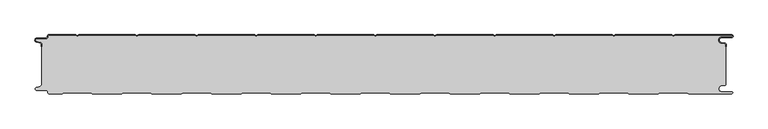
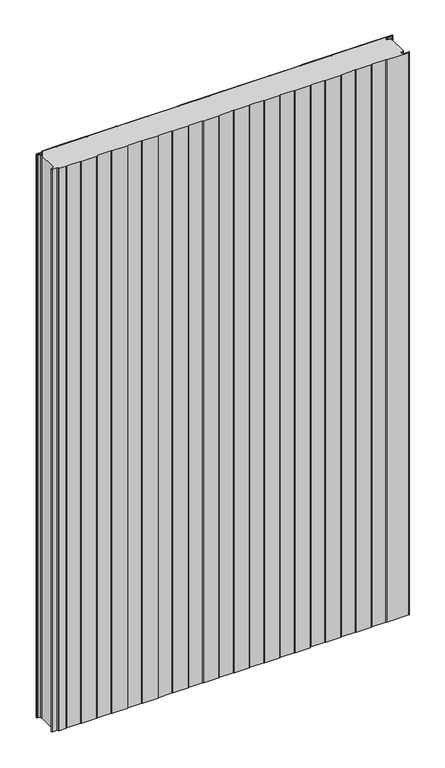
"""IFC4 building model written with IfcOpenShell, lengths in millimetres: plate geometry, PM1_Curtain-Panel_Perfil-Estándar : ACH_PM1_Panel-Acústico-Sectorización_100M."""

from ifc_helpers import new_model, si_unit, point, frame, frame_2d, origin, origin_with_axes, place, context, project, spatial, polyline, circle_curve, trimmed, segment, composite_curve, outline, extrude, source, transform, mapped, element, save
from ifc_brep_helpers import plane_surface, cylinder_surface, revolved_surface, advanced_brep


def plate_93d1fdce(model_context):
    return source(origin(), model_context, "Body", "SolidModel", [
        advanced_brep(
        [(-575.0, -15.878557, 1945.7507136), (-575.0, -20.0, 1945.7507136), (-574.2, -20.0, 1945.7507136), (-574.2, -15.878557, 1945.7507136), (-576.370137, -13.1503208, 1945.7507136), (-582.529863, -11.728236, 1945.7507136), (-581.9, -6.2, 1945.7507136), (-566.4, -6.2, 1945.7507136), (-563.6, -3.4, 1945.7507136), (-563.6, -2.0, 1945.7507136), (-562.4, -0.8, 1945.7507136), (-517.3143588, -0.8, 1945.7507136), (-514.4, -2.482606, 1945.7507136), (-511.4856412, -0.8, 1945.7507136), (-417.3143588, -0.8, 1945.7507136), (-414.4, -2.482606, 1945.7507136), (-411.4856412, -0.8, 1945.7507136), (-317.3143588, -0.8, 1945.7507136), (-314.4, -2.482606, 1945.7507136), (-311.4856412, -0.8, 1945.7507136), (-217.3143588, -0.8, 1945.7507136), (-214.4, -2.482606, 1945.7507136), (-211.4856412, -0.8, 1945.7507136), (-117.3143588, -0.8, 1945.7507136), (-114.4, -2.482606, 1945.7507136), (-111.4856412, -0.8, 1945.7507136), (-17.3143588, -0.8, 1945.7507136), (-14.4, -2.482606, 1945.7507136), (-11.4856412, -0.8, 1945.7507136), (82.6856412, -0.8, 1945.7507136), (85.6, -2.482606, 1945.7507136), (88.5143588, -0.8, 1945.7507136), (182.6856412, -0.8, 1945.7507136), (185.6, -2.482606, 1945.7507136), (188.5143588, -0.8, 1945.7507136), (282.6856412, -0.8, 1945.7507136), (285.6, -2.482606, 1945.7507136), (288.5143588, -0.8, 1945.7507136), (382.6856412, -0.8, 1945.7507136), (385.6, -2.482606, 1945.7507136), (388.5143588, -0.8, 1945.7507136), (482.6856412, -0.8, 1945.7507136), (485.6, -2.482606, 1945.7507136), (488.5143588, -0.8, 1945.7507136), (583.1, -0.8, 1945.7507136), (583.1, -4.2, 1945.7507136), (566.1, -4.2, 1945.7507136), (565.2664884, -13.7270771, 1945.7507136), (571.7125669, -14.8636953, 1945.7507136), (573.2, -16.6363492, 1945.7507136), (573.2, -20.0, 1945.7507136), (574.0, -20.0, 1945.7507136), (574.0, -16.6363492, 1945.7507136), (571.8514855, -14.0758491, 1945.7507136), (565.405407, -12.939231, 1945.7507136), (566.1, -5.0, 1945.7507136), (583.1, -5.0, 1945.7507136), (585.6, -2.5, 1945.7507136), (583.1, 0.0, 1945.7507136), (488.2999995, 0.0, 1945.7507136), (485.6, -1.5588455, 1945.7507136), (482.9000005, 0.0, 1945.7507136), (388.2999995, 0.0, 1945.7507136), (385.6, -1.5588455, 1945.7507136), (382.9000005, 0.0, 1945.7507136), (288.2999995, 0.0, 1945.7507136), (285.6, -1.5588455, 1945.7507136), (282.9000005, 0.0, 1945.7507136), (188.2999995, 0.0, 1945.7507136), (185.6, -1.5588455, 1945.7507136), (182.9000005, 0.0, 1945.7507136), (88.2999995, 0.0, 1945.7507136), (85.6, -1.5588455, 1945.7507136), (82.9000005, 0.0, 1945.7507136), (-11.7000005, 0.0, 1945.7507136), (-14.4, -1.5588455, 1945.7507136), (-17.0999995, 0.0, 1945.7507136), (-111.7000005, 0.0, 1945.7507136), (-114.4, -1.5588455, 1945.7507136), (-117.0999995, 0.0, 1945.7507136), (-211.7000005, 0.0, 1945.7507136), (-214.4, -1.5588455, 1945.7507136), (-217.0999995, 0.0, 1945.7507136), (-311.7000005, 0.0, 1945.7507136), (-314.4, -1.5588455, 1945.7507136), (-317.0999995, 0.0, 1945.7507136), (-411.7000005, 0.0, 1945.7507136), (-414.4, -1.5588455, 1945.7507136), (-417.0999995, 0.0, 1945.7507136), (-511.7000005, 0.0, 1945.7507136), (-514.4, -1.5588455, 1945.7507136), (-517.0999995, 0.0, 1945.7507136), (-562.4, 0.0, 1945.7507136), (-564.4, -2.0, 1945.7507136), (-564.4, -3.4, 1945.7507136), (-566.4, -5.4, 1945.7507136), (-581.9, -5.4, 1945.7507136), (-582.7098239, -12.5077322, 1945.7507136), (-576.5500979, -13.929817, 1945.7507136), (-575.0, -15.878557, 0.0), (-576.5500978, -13.9298169, 0.0), (-582.7098239, -12.507732, 0.0), (-581.9, -5.4, 0.0), (-566.4, -5.4, 0.0), (-564.4, -3.4, 0.0), (-564.4, -2.0, 0.0), (-562.4, 0.0, 0.0), (-517.0999995, 0.0, 0.0), (-514.4, -1.5588455, 0.0), (-511.7000005, 0.0, 0.0), (-417.0999995, 0.0, 0.0), (-414.4, -1.5588455, 0.0), (-411.7000005, 0.0, 0.0), (-317.0999995, 0.0, 0.0), (-314.4, -1.5588455, 0.0), (-311.7000005, 0.0, 0.0), (-217.0999995, 0.0, 0.0), (-214.4, -1.5588455, 0.0), (-211.7000005, 0.0, 0.0), (-117.0999995, 0.0, 0.0), (-114.4, -1.5588455, 0.0), (-111.7000005, 0.0, 0.0), (-17.0999995, 0.0, 0.0), (-14.4, -1.5588455, 0.0), (-11.7000005, 0.0, 0.0), (82.9000005, 0.0, 0.0), (85.6, -1.5588455, 0.0), (88.2999995, 0.0, 0.0), (182.9000005, 0.0, 0.0), (185.6, -1.5588455, 0.0), (188.2999995, 0.0, 0.0), (282.9000005, 0.0, 0.0), (285.6, -1.5588455, 0.0), (288.2999995, 0.0, 0.0), (382.9000005, 0.0, 0.0), (385.6, -1.5588455, 0.0), (388.2999995, 0.0, 0.0), (482.9000005, 0.0, 0.0), (485.6, -1.5588455, 0.0), (488.2999995, 0.0, 0.0), (583.1, 0.0, 0.0), (585.6, -2.5, 0.0), (583.1, -5.0, 0.0), (566.1, -5.0, 0.0), (565.405407, -12.939231, 0.0), (571.8514855, -14.0758491, 0.0), (574.0, -16.6363492, 0.0), (574.0, -20.0, 0.0), (573.2, -20.0, 0.0), (573.2, -16.6363492, 0.0), (571.7125669, -14.8636953, 0.0), (565.2664884, -13.7270772, 0.0), (566.1, -4.2, 0.0), (583.1, -4.2, 0.0), (583.1, -0.8, 0.0), (488.5143588, -0.8, 0.0), (485.6, -2.482606, 0.0), (482.6856412, -0.8, 0.0), (388.5143588, -0.8, 0.0), (385.6, -2.482606, 0.0), (382.6856412, -0.8, 0.0), (288.5143588, -0.8, 0.0), (285.6, -2.482606, 0.0), (282.6856412, -0.8, 0.0), (188.5143588, -0.8, 0.0), (185.6, -2.482606, 0.0), (182.6856412, -0.8, 0.0), (88.5143588, -0.8, 0.0), (85.6, -2.482606, 0.0), (82.6856412, -0.8, 0.0), (-11.4856412, -0.8, 0.0), (-14.4, -2.482606, 0.0), (-17.3143588, -0.8, 0.0), (-111.4856412, -0.8, 0.0), (-114.4, -2.482606, 0.0), (-117.3143588, -0.8, 0.0), (-211.4856412, -0.8, 0.0), (-214.4, -2.482606, 0.0), (-217.3143588, -0.8, 0.0), (-311.4856412, -0.8, 0.0), (-314.4, -2.482606, 0.0), (-317.3143588, -0.8, 0.0), (-411.4856412, -0.8, 0.0), (-414.4, -2.482606, 0.0), (-417.3143588, -0.8, 0.0), (-511.4856412, -0.8, 0.0), (-514.4, -2.482606, 0.0), (-517.3143588, -0.8, 0.0), (-562.4, -0.8, 0.0), (-563.6, -2.0, 0.0), (-563.6, -3.4, 0.0), (-566.4, -6.2, 0.0), (-581.9, -6.2, 0.0), (-582.529863, -11.7282362, 0.0), (-576.370137, -13.150321, 0.0), (-574.2, -15.878557, 0.0), (-574.2, -20.0, 0.0), (-575.0, -20.0, 0.0)],
        [
            (0, 1),
            (1, 2),
            (2, 3),
            (3, 4, circle_curve(frame((-577.0, -15.878557, 1945.7507136), z_axis=(0.0, 0.0, 1.0), x_axis=(1.0, 0.0, 0.0)), 2.8)),
            (4, 5),
            (5, 6, circle_curve(frame((-581.9, -9.0, 1945.7507136), z_axis=(0.0, 0.0, -1.0), x_axis=(1.0, 0.0, 0.0)), 2.8)),
            (6, 7),
            (7, 8, circle_curve(frame((-566.4, -3.4, 1945.7507136), z_axis=(0.0, 0.0, 1.0), x_axis=(1.0, 0.0, 0.0)), 2.8)),
            (8, 9),
            (9, 10, circle_curve(frame((-562.4, -2.0, 1945.7507136), z_axis=(0.0, 0.0, -1.0), x_axis=(1.0, 0.0, 0.0)), 1.2)),
            (10, 11),
            (11, 12),
            (12, 13),
            (13, 14),
            (14, 15),
            (15, 16),
            (16, 17),
            (17, 18),
            (18, 19),
            (19, 20),
            (20, 21),
            (21, 22),
            (22, 23),
            (23, 24),
            (24, 25),
            (25, 26),
            (26, 27),
            (27, 28),
            (28, 29),
            (29, 30),
            (30, 31),
            (31, 32),
            (32, 33),
            (33, 34),
            (34, 35),
            (35, 36),
            (36, 37),
            (37, 38),
            (38, 39),
            (39, 40),
            (40, 41),
            (41, 42),
            (42, 43),
            (43, 44),
            (44, 45, circle_curve(frame((583.1, -2.5, 1945.7507136), z_axis=(0.0, 0.0, -1.0), x_axis=(1.0, 0.0, 0.0)), 1.7)),
            (45, 46),
            (46, 47, circle_curve(frame((566.1, -9.0, 1945.7507136), z_axis=(0.0, 0.0, 1.0), x_axis=(1.0, 0.0, 0.0)), 4.8)),
            (47, 48),
            (48, 49, circle_curve(frame((571.4, -16.6363492, 1945.7507136), z_axis=(0.0, 0.0, -1.0), x_axis=(1.0, 0.0, 0.0)), 1.8)),
            (49, 50),
            (50, 51),
            (51, 52),
            (52, 53, circle_curve(frame((571.4, -16.6363492, 1945.7507136), z_axis=(0.0, 0.0, 1.0), x_axis=(1.0, 0.0, 0.0)), 2.6)),
            (53, 54),
            (54, 55, circle_curve(frame((566.1, -9.0, 1945.7507136), z_axis=(0.0, 0.0, -1.0), x_axis=(1.0, 0.0, 0.0)), 4.0)),
            (55, 56),
            (56, 57, circle_curve(frame((583.1, -2.5, 1945.7507136), z_axis=(0.0, 0.0, 1.0), x_axis=(1.0, 0.0, 0.0)), 2.5)),
            (57, 58, circle_curve(frame((583.1, -2.5, 1945.7507136), z_axis=(0.0, 0.0, 1.0), x_axis=(1.0, 0.0, 0.0)), 2.5)),
            (58, 59),
            (59, 60),
            (60, 61),
            (61, 62),
            (62, 63),
            (63, 64),
            (64, 65),
            (65, 66),
            (66, 67),
            (67, 68),
            (68, 69),
            (69, 70),
            (70, 71),
            (71, 72),
            (72, 73),
            (73, 74),
            (74, 75),
            (75, 76),
            (76, 77),
            (77, 78),
            (78, 79),
            (79, 80),
            (80, 81),
            (81, 82),
            (82, 83),
            (83, 84),
            (84, 85),
            (85, 86),
            (86, 87),
            (87, 88),
            (88, 89),
            (89, 90),
            (90, 91),
            (91, 92),
            (92, 93, circle_curve(frame((-562.4, -2.0, 1945.7507136), z_axis=(0.0, 0.0, 1.0), x_axis=(1.0, 0.0, 0.0)), 2.0)),
            (93, 94),
            (94, 95, circle_curve(frame((-566.4, -3.4, 1945.7507136), z_axis=(0.0, 0.0, -1.0), x_axis=(1.0, 0.0, 0.0)), 2.0)),
            (95, 96),
            (96, 97, circle_curve(frame((-581.9, -9.0, 1945.7507136), z_axis=(0.0, 0.0, 1.0), x_axis=(1.0, 0.0, 0.0)), 3.6)),
            (97, 98),
            (98, 0, circle_curve(frame((-577.0, -15.878557, 1945.7507136), z_axis=(0.0, 0.0, -1.0), x_axis=(1.0, 0.0, 0.0)), 2.0)),
            (99, 100, circle_curve(frame((-577.0, -15.878557, 0.0), z_axis=(0.0, 0.0, 1.0), x_axis=(1.0, 0.0, 0.0)), 2.0)),
            (100, 101),
            (101, 102, circle_curve(frame((-581.9, -9.0, 0.0), z_axis=(0.0, 0.0, -1.0), x_axis=(1.0, 0.0, 0.0)), 3.6)),
            (102, 103),
            (103, 104, circle_curve(frame((-566.4, -3.4, 0.0), z_axis=(0.0, 0.0, 1.0), x_axis=(1.0, 0.0, 0.0)), 2.0)),
            (104, 105),
            (105, 106, circle_curve(frame((-562.4, -2.0, 0.0), z_axis=(0.0, 0.0, -1.0), x_axis=(1.0, 0.0, 0.0)), 2.0)),
            (106, 107),
            (107, 108),
            (108, 109),
            (109, 110),
            (110, 111),
            (111, 112),
            (112, 113),
            (113, 114),
            (114, 115),
            (115, 116),
            (116, 117),
            (117, 118),
            (118, 119),
            (119, 120),
            (120, 121),
            (121, 122),
            (122, 123),
            (123, 124),
            (124, 125),
            (125, 126),
            (126, 127),
            (127, 128),
            (128, 129),
            (129, 130),
            (130, 131),
            (131, 132),
            (132, 133),
            (133, 134),
            (134, 135),
            (135, 136),
            (136, 137),
            (137, 138),
            (138, 139),
            (139, 140),
            (140, 141, circle_curve(frame((583.1, -2.5, 0.0), z_axis=(0.0, 0.0, -1.0), x_axis=(1.0, 0.0, 0.0)), 2.5)),
            (141, 142, circle_curve(frame((583.1, -2.5, 0.0), z_axis=(0.0, 0.0, -1.0), x_axis=(1.0, 0.0, 0.0)), 2.5)),
            (142, 143),
            (143, 144, circle_curve(frame((566.1, -9.0, 0.0), z_axis=(0.0, 0.0, 1.0), x_axis=(1.0, 0.0, 0.0)), 4.0)),
            (144, 145),
            (145, 146, circle_curve(frame((571.4, -16.6363492, 0.0), z_axis=(0.0, 0.0, -1.0), x_axis=(1.0, 0.0, 0.0)), 2.6)),
            (146, 147),
            (147, 148),
            (148, 149),
            (149, 150, circle_curve(frame((571.4, -16.6363492, 0.0), z_axis=(0.0, 0.0, 1.0), x_axis=(1.0, 0.0, 0.0)), 1.8)),
            (150, 151),
            (151, 152, circle_curve(frame((566.1, -9.0, 0.0), z_axis=(0.0, 0.0, -1.0), x_axis=(1.0, 0.0, 0.0)), 4.8)),
            (152, 153),
            (153, 154, circle_curve(frame((583.1, -2.5, 0.0), z_axis=(0.0, 0.0, 1.0), x_axis=(1.0, 0.0, 0.0)), 1.7)),
            (154, 155),
            (155, 156),
            (156, 157),
            (157, 158),
            (158, 159),
            (159, 160),
            (160, 161),
            (161, 162),
            (162, 163),
            (163, 164),
            (164, 165),
            (165, 166),
            (166, 167),
            (167, 168),
            (168, 169),
            (169, 170),
            (170, 171),
            (171, 172),
            (172, 173),
            (173, 174),
            (174, 175),
            (175, 176),
            (176, 177),
            (177, 178),
            (178, 179),
            (179, 180),
            (180, 181),
            (181, 182),
            (182, 183),
            (183, 184),
            (184, 185),
            (185, 186),
            (186, 187),
            (187, 188),
            (188, 189, circle_curve(frame((-562.4, -2.0, 0.0), z_axis=(0.0, 0.0, 1.0), x_axis=(1.0, 0.0, 0.0)), 1.2)),
            (189, 190),
            (190, 191, circle_curve(frame((-566.4, -3.4, 0.0), z_axis=(0.0, 0.0, -1.0), x_axis=(1.0, 0.0, 0.0)), 2.8)),
            (191, 192),
            (192, 193, circle_curve(frame((-581.9, -9.0, 0.0), z_axis=(0.0, 0.0, 1.0), x_axis=(1.0, 0.0, 0.0)), 2.8)),
            (193, 194),
            (194, 195, circle_curve(frame((-577.0, -15.878557, 0.0), z_axis=(0.0, 0.0, -1.0), x_axis=(1.0, 0.0, 0.0)), 2.8)),
            (195, 196),
            (196, 197),
            (197, 99),
            (0, 99),
            (197, 1),
            (196, 2),
            (195, 3),
            (194, 4),
            (193, 5),
            (192, 6),
            (191, 7),
            (190, 8),
            (189, 9),
            (188, 10),
            (187, 11),
            (186, 12),
            (185, 13),
            (184, 14),
            (183, 15),
            (182, 16),
            (181, 17),
            (180, 18),
            (179, 19),
            (178, 20),
            (177, 21),
            (176, 22),
            (175, 23),
            (174, 24),
            (173, 25),
            (172, 26),
            (171, 27),
            (170, 28),
            (169, 29),
            (168, 30),
            (167, 31),
            (166, 32),
            (165, 33),
            (164, 34),
            (163, 35),
            (162, 36),
            (161, 37),
            (160, 38),
            (159, 39),
            (158, 40),
            (157, 41),
            (156, 42),
            (155, 43),
            (154, 44),
            (153, 45),
            (152, 46),
            (151, 47),
            (150, 48),
            (149, 49),
            (148, 50),
            (147, 51),
            (146, 52),
            (145, 53),
            (144, 54),
            (143, 55),
            (142, 56),
            (140, 58),
            (139, 59),
            (138, 60),
            (137, 61),
            (136, 62),
            (135, 63),
            (134, 64),
            (133, 65),
            (132, 66),
            (131, 67),
            (130, 68),
            (129, 69),
            (128, 70),
            (127, 71),
            (126, 72),
            (125, 73),
            (124, 74),
            (123, 75),
            (122, 76),
            (121, 77),
            (120, 78),
            (119, 79),
            (118, 80),
            (117, 81),
            (116, 82),
            (115, 83),
            (114, 84),
            (113, 85),
            (112, 86),
            (111, 87),
            (110, 88),
            (109, 89),
            (108, 90),
            (107, 91),
            (106, 92),
            (105, 93),
            (104, 94),
            (103, 95),
            (102, 96),
            (101, 97),
            (100, 98),
        ],
        [
            plane_surface(frame((-575.0, 0.0, 1945.7507136), z_axis=(0.0, 0.0, 1.0), x_axis=(0.0, 1.0, 0.0))),
            plane_surface(frame((-575.0, 0.0, 0.0), z_axis=(0.0, 0.0, -1.0), x_axis=(0.0, 1.0, 0.0))),
            plane_surface(frame((-575.0, -15.878557, 1945.7507136), z_axis=(-1.0, 0.0, 0.0), x_axis=(0.0, 0.0, -1.0))),
            plane_surface(frame((-575.0, -20.0, 1945.7507136), z_axis=(0.0, -1.0, 0.0), x_axis=(0.0, 0.0, -1.0))),
            plane_surface(frame((-574.2, -20.0, 1945.7507136), z_axis=(1.0, 0.0, 0.0), x_axis=(0.0, 0.0, -1.0))),
            cylinder_surface(frame((-577.0, -15.878557, 1945.7507136), z_axis=(0.0, 0.0, 1.0), x_axis=(1.0, 0.0, 0.0)), 2.8),
            plane_surface(frame((-576.370137, -13.150321, 1945.7507136), z_axis=(0.22495108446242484, 0.9743700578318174, 0.0), x_axis=(0.0, 0.0, -1.0))),
            revolved_surface(polyline([(-579.1, -9.0, 0.0), (-579.1, -9.0, 1945.7507136)]), (-581.9, -9.0, 1945.7507136), (0.0, 0.0, -1.0)),
            plane_surface(frame((-581.9, -6.2, 1945.7507136), z_axis=(0.0, -1.0, 0.0), x_axis=(0.0, 0.0, -1.0))),
            cylinder_surface(frame((-566.4, -3.4, 1945.7507136), z_axis=(0.0, 0.0, 1.0), x_axis=(1.0, 0.0, 0.0)), 2.8),
            plane_surface(frame((-563.6, -3.4, 1945.7507136), z_axis=(1.0, 0.0, 0.0), x_axis=(0.0, 0.0, -1.0))),
            revolved_surface(polyline([(-561.1999999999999, -2.0, 0.0), (-561.1999999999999, -2.0, 1945.7507136)]), (-562.4, -2.0, 1945.7507136), (0.0, 0.0, -1.0)),
            plane_surface(frame((-562.4, -0.8, 1945.7507136), z_axis=(0.0, -1.0, 0.0), x_axis=(0.0, 0.0, -1.0))),
            plane_surface(frame((-517.3143588, -0.8, 1945.7507136), z_axis=(-0.5000000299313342, -0.8660253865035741, 0.0), x_axis=(0.0, 0.0, -1.0))),
            plane_surface(frame((-514.4, -2.482606, 1945.7507136), z_axis=(0.5000000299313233, -0.8660253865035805, 0.0), x_axis=(0.0, 0.0, -1.0))),
            plane_surface(frame((-511.4856412, -0.8, 1945.7507136), z_axis=(0.0, -1.0, 0.0), x_axis=(0.0, 0.0, -1.0))),
            plane_surface(frame((-417.3143588, -0.8, 1945.7507136), z_axis=(-0.5000000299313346, -0.8660253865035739, 0.0), x_axis=(0.0, 0.0, -1.0))),
            plane_surface(frame((-414.4, -2.482606, 1945.7507136), z_axis=(0.5000000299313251, -0.8660253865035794, 0.0), x_axis=(0.0, 0.0, -1.0))),
            plane_surface(frame((-411.4856412, -0.8, 1945.7507136), z_axis=(0.0, -1.0, 0.0), x_axis=(0.0, 0.0, -1.0))),
            plane_surface(frame((-317.3143588, -0.8, 1945.7507136), z_axis=(-0.5000000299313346, -0.866025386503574, 0.0), x_axis=(0.0, 0.0, -1.0))),
            plane_surface(frame((-314.4, -2.482606, 1945.7507136), z_axis=(0.5000000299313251, -0.8660253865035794, 0.0), x_axis=(0.0, 0.0, -1.0))),
            plane_surface(frame((-311.4856412, -0.8, 1945.7507136), z_axis=(0.0, -1.0, 0.0), x_axis=(0.0, 0.0, -1.0))),
            plane_surface(frame((-217.3143588, -0.8, 1945.7507136), z_axis=(-0.5000000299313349, -0.8660253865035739, 0.0), x_axis=(0.0, 0.0, -1.0))),
            plane_surface(frame((-214.4, -2.482606, 1945.7507136), z_axis=(0.5000000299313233, -0.8660253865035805, 0.0), x_axis=(0.0, 0.0, -1.0))),
            plane_surface(frame((-211.4856412, -0.8, 1945.7507136), z_axis=(0.0, -1.0, 0.0), x_axis=(0.0, 0.0, -1.0))),
            plane_surface(frame((-117.3143588, -0.8, 1945.7507136), z_axis=(-0.5000000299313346, -0.866025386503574, 0.0), x_axis=(0.0, 0.0, -1.0))),
            plane_surface(frame((-114.4, -2.482606, 1945.7507136), z_axis=(0.5000000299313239, -0.8660253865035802, 0.0), x_axis=(0.0, 0.0, -1.0))),
            plane_surface(frame((-111.4856412, -0.8, 1945.7507136), z_axis=(0.0, -1.0, 0.0), x_axis=(0.0, 0.0, -1.0))),
            plane_surface(frame((-17.3143588, -0.8, 1945.7507136), z_axis=(-0.5000000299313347, -0.8660253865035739, 0.0), x_axis=(0.0, 0.0, -1.0))),
            plane_surface(frame((-14.4, -2.482606, 1945.7507136), z_axis=(0.5000000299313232, -0.8660253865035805, 0.0), x_axis=(0.0, 0.0, -1.0))),
            plane_surface(frame((-11.4856412, -0.8, 1945.7507136), z_axis=(0.0, -1.0, 0.0), x_axis=(0.0, 0.0, -1.0))),
            plane_surface(frame((82.6856412, -0.8, 1945.7507136), z_axis=(-0.5000000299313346, -0.866025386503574, 0.0), x_axis=(0.0, 0.0, -1.0))),
            plane_surface(frame((85.6, -2.482606, 1945.7507136), z_axis=(0.5000000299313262, -0.8660253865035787, 0.0), x_axis=(0.0, 0.0, -1.0))),
            plane_surface(frame((88.5143588, -0.8, 1945.7507136), z_axis=(0.0, -1.0, 0.0), x_axis=(0.0, 0.0, -1.0))),
            plane_surface(frame((182.6856412, -0.8, 1945.7507136), z_axis=(-0.5000000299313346, -0.8660253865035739, 0.0), x_axis=(0.0, 0.0, -1.0))),
            plane_surface(frame((185.6, -2.482606, 1945.7507136), z_axis=(0.5000000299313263, -0.8660253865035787, 0.0), x_axis=(0.0, 0.0, -1.0))),
            plane_surface(frame((188.5143588, -0.8, 1945.7507136), z_axis=(0.0, -1.0, 0.0), x_axis=(0.0, 0.0, -1.0))),
            plane_surface(frame((282.6856412, -0.8, 1945.7507136), z_axis=(-0.5000000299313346, -0.8660253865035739, 0.0), x_axis=(0.0, 0.0, -1.0))),
            plane_surface(frame((285.6, -2.482606, 1945.7507136), z_axis=(0.5000000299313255, -0.8660253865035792, 0.0), x_axis=(0.0, 0.0, -1.0))),
            plane_surface(frame((288.5143588, -0.8, 1945.7507136), z_axis=(0.0, -1.0, 0.0), x_axis=(0.0, 0.0, -1.0))),
            plane_surface(frame((382.6856412, -0.8, 1945.7507136), z_axis=(-0.5000000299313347, -0.8660253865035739, 0.0), x_axis=(0.0, 0.0, -1.0))),
            plane_surface(frame((385.6, -2.482606, 1945.7507136), z_axis=(0.5000000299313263, -0.8660253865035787, 0.0), x_axis=(0.0, 0.0, -1.0))),
            plane_surface(frame((388.5143588, -0.8, 1945.7507136), z_axis=(0.0, -1.0, 0.0), x_axis=(0.0, 0.0, -1.0))),
            plane_surface(frame((482.6856412, -0.8, 1945.7507136), z_axis=(-0.5000000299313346, -0.866025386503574, 0.0), x_axis=(0.0, 0.0, -1.0))),
            plane_surface(frame((485.6, -2.482606, 1945.7507136), z_axis=(0.5000000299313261, -0.8660253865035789, 0.0), x_axis=(0.0, 0.0, -1.0))),
            plane_surface(frame((535.6, -0.8, 1945.7507136), z_axis=(0.0, -1.0, 0.0), x_axis=(0.0, 0.0, -1.0))),
            revolved_surface(polyline([(584.8000000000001, -2.5, 0.0), (584.8000000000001, -2.5, 1945.7507136)]), (583.1, -2.5, 1945.7507136), (0.0, 0.0, -1.0)),
            plane_surface(frame((583.1, -4.2, 1945.7507136), z_axis=(0.0, 1.0, 0.0), x_axis=(0.0, 0.0, -1.0))),
            cylinder_surface(frame((566.1, -9.0, 1945.7507136), z_axis=(0.0, 0.0, 1.0), x_axis=(1.0, 0.0, 0.0)), 4.8),
            plane_surface(frame((565.2664884, -13.7270772, 1945.7507136), z_axis=(-0.17364825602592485, -0.9848077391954, 0.0), x_axis=(0.0, 0.0, -1.0))),
            revolved_surface(polyline([(573.1999999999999, -16.6363492, 0.0), (573.1999999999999, -16.6363492, 1945.7507136)]), (571.4, -16.6363492, 1945.7507136), (0.0, 0.0, -1.0)),
            plane_surface(frame((573.2, -16.6363492, 1945.7507136), z_axis=(-1.0, 0.0, 0.0), x_axis=(0.0, 0.0, -1.0))),
            plane_surface(frame((573.2, -20.0, 1945.7507136), z_axis=(0.0, -1.0, 0.0), x_axis=(0.0, 0.0, -1.0))),
            plane_surface(frame((574.0, -20.0, 1945.7507136), z_axis=(1.0, 0.0, 0.0), x_axis=(0.0, 0.0, -1.0))),
            cylinder_surface(frame((571.4, -16.6363492, 1945.7507136), z_axis=(0.0, 0.0, 1.0), x_axis=(1.0, 0.0, 0.0)), 2.6),
            plane_surface(frame((571.8514855, -14.0758491, 1945.7507136), z_axis=(0.1736482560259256, 0.9848077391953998, 0.0), x_axis=(0.0, 0.0, -1.0))),
            revolved_surface(polyline([(570.1, -9.0, 0.0), (570.1, -9.0, 1945.7507136)]), (566.1, -9.0, 1945.7507136), (0.0, 0.0, -1.0)),
            plane_surface(frame((566.1, -5.0, 1945.7507136), z_axis=(0.0, -1.0, 0.0), x_axis=(0.0, 0.0, -1.0))),
            cylinder_surface(frame((583.1, -2.5, 1945.7507136), z_axis=(0.0, 0.0, 1.0), x_axis=(1.0, 0.0, 0.0)), 2.5),
            plane_surface(frame((535.6, 0.0, 1945.7507136), z_axis=(0.0, 1.0, 0.0), x_axis=(0.0, 0.0, -1.0))),
            plane_surface(frame((488.2999995, 0.0, 1945.7507136), z_axis=(-0.5000000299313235, 0.8660253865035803, 0.0), x_axis=(0.0, 0.0, -1.0))),
            plane_surface(frame((485.6, -1.5588455, 1945.7507136), z_axis=(0.5000000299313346, 0.8660253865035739, 0.0), x_axis=(0.0, 0.0, -1.0))),
            plane_surface(frame((482.9000005, 0.0, 1945.7507136), z_axis=(0.0, 1.0, 0.0), x_axis=(0.0, 0.0, -1.0))),
            plane_surface(frame((388.2999995, 0.0, 1945.7507136), z_axis=(-0.5000000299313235, 0.8660253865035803, 0.0), x_axis=(0.0, 0.0, -1.0))),
            plane_surface(frame((385.6, -1.5588455, 1945.7507136), z_axis=(0.5000000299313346, 0.8660253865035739, 0.0), x_axis=(0.0, 0.0, -1.0))),
            plane_surface(frame((382.9000005, 0.0, 1945.7507136), z_axis=(0.0, 1.0, 0.0), x_axis=(0.0, 0.0, -1.0))),
            plane_surface(frame((288.2999995, 0.0, 1945.7507136), z_axis=(-0.5000000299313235, 0.8660253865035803, 0.0), x_axis=(0.0, 0.0, -1.0))),
            plane_surface(frame((285.6, -1.5588455, 1945.7507136), z_axis=(0.5000000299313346, 0.8660253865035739, 0.0), x_axis=(0.0, 0.0, -1.0))),
            plane_surface(frame((282.9000005, 0.0, 1945.7507136), z_axis=(0.0, 1.0, 0.0), x_axis=(0.0, 0.0, -1.0))),
            plane_surface(frame((188.2999995, 0.0, 1945.7507136), z_axis=(-0.5000000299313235, 0.8660253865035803, 0.0), x_axis=(0.0, 0.0, -1.0))),
            plane_surface(frame((185.6, -1.5588455, 1945.7507136), z_axis=(0.5000000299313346, 0.8660253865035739, 0.0), x_axis=(0.0, 0.0, -1.0))),
            plane_surface(frame((182.9000005, 0.0, 1945.7507136), z_axis=(0.0, 1.0, 0.0), x_axis=(0.0, 0.0, -1.0))),
            plane_surface(frame((88.2999995, 0.0, 1945.7507136), z_axis=(-0.5000000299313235, 0.8660253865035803, 0.0), x_axis=(0.0, 0.0, -1.0))),
            plane_surface(frame((85.6, -1.5588455, 1945.7507136), z_axis=(0.5000000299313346, 0.8660253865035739, 0.0), x_axis=(0.0, 0.0, -1.0))),
            plane_surface(frame((82.9000005, 0.0, 1945.7507136), z_axis=(0.0, 1.0, 0.0), x_axis=(0.0, 0.0, -1.0))),
            plane_surface(frame((-11.7000005, 0.0, 1945.7507136), z_axis=(-0.5000000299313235, 0.8660253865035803, 0.0), x_axis=(0.0, 0.0, -1.0))),
            plane_surface(frame((-14.4, -1.5588455, 1945.7507136), z_axis=(0.5000000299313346, 0.8660253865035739, 0.0), x_axis=(0.0, 0.0, -1.0))),
            plane_surface(frame((-17.0999995, 0.0, 1945.7507136), z_axis=(0.0, 1.0, 0.0), x_axis=(0.0, 0.0, -1.0))),
            plane_surface(frame((-111.7000005, 0.0, 1945.7507136), z_axis=(-0.5000000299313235, 0.8660253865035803, 0.0), x_axis=(0.0, 0.0, -1.0))),
            plane_surface(frame((-114.4, -1.5588455, 1945.7507136), z_axis=(0.5000000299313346, 0.8660253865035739, 0.0), x_axis=(0.0, 0.0, -1.0))),
            plane_surface(frame((-117.0999995, 0.0, 1945.7507136), z_axis=(0.0, 1.0, 0.0), x_axis=(0.0, 0.0, -1.0))),
            plane_surface(frame((-211.7000005, 0.0, 1945.7507136), z_axis=(-0.5000000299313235, 0.8660253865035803, 0.0), x_axis=(0.0, 0.0, -1.0))),
            plane_surface(frame((-214.4, -1.5588455, 1945.7507136), z_axis=(0.5000000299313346, 0.8660253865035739, 0.0), x_axis=(0.0, 0.0, -1.0))),
            plane_surface(frame((-217.0999995, 0.0, 1945.7507136), z_axis=(0.0, 1.0, 0.0), x_axis=(0.0, 0.0, -1.0))),
            plane_surface(frame((-311.7000005, 0.0, 1945.7507136), z_axis=(-0.5000000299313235, 0.8660253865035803, 0.0), x_axis=(0.0, 0.0, -1.0))),
            plane_surface(frame((-314.4, -1.5588455, 1945.7507136), z_axis=(0.5000000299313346, 0.8660253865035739, 0.0), x_axis=(0.0, 0.0, -1.0))),
            plane_surface(frame((-317.0999995, 0.0, 1945.7507136), z_axis=(0.0, 1.0, 0.0), x_axis=(0.0, 0.0, -1.0))),
            plane_surface(frame((-411.7000005, 0.0, 1945.7507136), z_axis=(-0.5000000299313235, 0.8660253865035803, 0.0), x_axis=(0.0, 0.0, -1.0))),
            plane_surface(frame((-414.4, -1.5588455, 1945.7507136), z_axis=(0.5000000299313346, 0.8660253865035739, 0.0), x_axis=(0.0, 0.0, -1.0))),
            plane_surface(frame((-417.0999995, 0.0, 1945.7507136), z_axis=(0.0, 1.0, 0.0), x_axis=(0.0, 0.0, -1.0))),
            plane_surface(frame((-511.7000005, 0.0, 1945.7507136), z_axis=(-0.5000000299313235, 0.8660253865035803, 0.0), x_axis=(0.0, 0.0, -1.0))),
            plane_surface(frame((-514.4, -1.5588455, 1945.7507136), z_axis=(0.5000000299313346, 0.8660253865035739, 0.0), x_axis=(0.0, 0.0, -1.0))),
            plane_surface(frame((-517.0999995, 0.0, 1945.7507136), z_axis=(0.0, 1.0, 0.0), x_axis=(0.0, 0.0, -1.0))),
            cylinder_surface(frame((-562.4, -2.0, 1945.7507136), z_axis=(0.0, 0.0, 1.0), x_axis=(1.0, 0.0, 0.0)), 2.0),
            plane_surface(frame((-564.4, -2.0, 1945.7507136), z_axis=(-1.0, 0.0, 0.0), x_axis=(0.0, 0.0, -1.0))),
            revolved_surface(polyline([(-564.4, -3.4, 0.0), (-564.4, -3.4, 1945.7507136)]), (-566.4, -3.4, 1945.7507136), (0.0, 0.0, -1.0)),
            plane_surface(frame((-566.4, -5.4, 1945.7507136), z_axis=(0.0, 1.0, 0.0), x_axis=(0.0, 0.0, -1.0))),
            cylinder_surface(frame((-581.9, -9.0, 1945.7507136), z_axis=(0.0, 0.0, 1.0), x_axis=(1.0, 0.0, 0.0)), 3.6),
            plane_surface(frame((-582.7098239, -12.507732, 1945.7507136), z_axis=(-0.22495108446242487, -0.9743700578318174, 0.0), x_axis=(0.0, 0.0, -1.0))),
            revolved_surface(polyline([(-575.0, -15.878557, 0.0), (-575.0, -15.878557, 1945.7507136)]), (-577.0, -15.878557, 1945.7507136), (0.0, 0.0, -1.0)),
        ],
        [
            (0, [[1, 2, 3, 4, 5, 6, 7, 8, 9, 10, 11, 12, 13, 14, 15, 16, 17, 18, 19, 20, 21, 22, 23, 24, 25, 26, 27, 28, 29, 30, 31, 32, 33, 34, 35, 36, 37, 38, 39, 40, 41, 42, 43, 44, 45, 46, 47, 48, 49, 50, 51, 52, 53, 54, 55, 56, 57, 58, 59, 60, 61, 62, 63, 64, 65, 66, 67, 68, 69, 70, 71, 72, 73, 74, 75, 76, 77, 78, 79, 80, 81, 82, 83, 84, 85, 86, 87, 88, 89, 90, 91, 92, 93, 94, 95, 96, 97, 98, 99]]),
            (1, [[100, 101, 102, 103, 104, 105, 106, 107, 108, 109, 110, 111, 112, 113, 114, 115, 116, 117, 118, 119, 120, 121, 122, 123, 124, 125, 126, 127, 128, 129, 130, 131, 132, 133, 134, 135, 136, 137, 138, 139, 140, 141, 142, 143, 144, 145, 146, 147, 148, 149, 150, 151, 152, 153, 154, 155, 156, 157, 158, 159, 160, 161, 162, 163, 164, 165, 166, 167, 168, 169, 170, 171, 172, 173, 174, 175, 176, 177, 178, 179, 180, 181, 182, 183, 184, 185, 186, 187, 188, 189, 190, 191, 192, 193, 194, 195, 196, 197, 198]]),
            (2, [[-1, 199, -198, 200]]),
            (3, [[-2, -200, -197, 201]]),
            (4, [[-3, -201, -196, 202]]),
            (5, [[-4, -202, -195, 203]]),
            (6, [[-5, -203, -194, 204]]),
            (7, [[-6, -204, -193, 205]]),
            (8, [[-7, -205, -192, 206]]),
            (9, [[-8, -206, -191, 207]]),
            (10, [[-9, -207, -190, 208]]),
            (11, [[-10, -208, -189, 209]]),
            (12, [[-11, -209, -188, 210]]),
            (13, [[-12, -210, -187, 211]]),
            (14, [[-13, -211, -186, 212]]),
            (15, [[-14, -212, -185, 213]]),
            (16, [[-15, -213, -184, 214]]),
            (17, [[-16, -214, -183, 215]]),
            (18, [[-17, -215, -182, 216]]),
            (19, [[-18, -216, -181, 217]]),
            (20, [[-19, -217, -180, 218]]),
            (21, [[-20, -218, -179, 219]]),
            (22, [[-21, -219, -178, 220]]),
            (23, [[-22, -220, -177, 221]]),
            (24, [[-23, -221, -176, 222]]),
            (25, [[-24, -222, -175, 223]]),
            (26, [[-25, -223, -174, 224]]),
            (27, [[-26, -224, -173, 225]]),
            (28, [[-27, -225, -172, 226]]),
            (29, [[-28, -226, -171, 227]]),
            (30, [[-29, -227, -170, 228]]),
            (31, [[-30, -228, -169, 229]]),
            (32, [[-31, -229, -168, 230]]),
            (33, [[-32, -230, -167, 231]]),
            (34, [[-33, -231, -166, 232]]),
            (35, [[-34, -232, -165, 233]]),
            (36, [[-35, -233, -164, 234]]),
            (37, [[-36, -234, -163, 235]]),
            (38, [[-37, -235, -162, 236]]),
            (39, [[-38, -236, -161, 237]]),
            (40, [[-39, -237, -160, 238]]),
            (41, [[-40, -238, -159, 239]]),
            (42, [[-41, -239, -158, 240]]),
            (43, [[-42, -240, -157, 241]]),
            (44, [[-43, -241, -156, 242]]),
            (45, [[-44, -242, -155, 243]]),
            (46, [[-45, -243, -154, 244]]),
            (47, [[-46, -244, -153, 245]]),
            (48, [[-47, -245, -152, 246]]),
            (49, [[-48, -246, -151, 247]]),
            (50, [[-49, -247, -150, 248]]),
            (51, [[-50, -248, -149, 249]]),
            (52, [[-51, -249, -148, 250]]),
            (53, [[-52, -250, -147, 251]]),
            (54, [[-53, -251, -146, 252]]),
            (55, [[-54, -252, -145, 253]]),
            (56, [[-55, -253, -144, 254]]),
            (57, [[-56, -254, -143, 255]]),
            (58, [[-255, -142, -141, 256, -58, -57]]),
            (59, [[-59, -256, -140, 257]]),
            (60, [[-60, -257, -139, 258]]),
            (61, [[-61, -258, -138, 259]]),
            (62, [[-62, -259, -137, 260]]),
            (63, [[-63, -260, -136, 261]]),
            (64, [[-64, -261, -135, 262]]),
            (65, [[-65, -262, -134, 263]]),
            (66, [[-66, -263, -133, 264]]),
            (67, [[-67, -264, -132, 265]]),
            (68, [[-68, -265, -131, 266]]),
            (69, [[-69, -266, -130, 267]]),
            (70, [[-70, -267, -129, 268]]),
            (71, [[-71, -268, -128, 269]]),
            (72, [[-72, -269, -127, 270]]),
            (73, [[-73, -270, -126, 271]]),
            (74, [[-74, -271, -125, 272]]),
            (75, [[-75, -272, -124, 273]]),
            (76, [[-76, -273, -123, 274]]),
            (77, [[-77, -274, -122, 275]]),
            (78, [[-78, -275, -121, 276]]),
            (79, [[-79, -276, -120, 277]]),
            (80, [[-80, -277, -119, 278]]),
            (81, [[-81, -278, -118, 279]]),
            (82, [[-82, -279, -117, 280]]),
            (83, [[-83, -280, -116, 281]]),
            (84, [[-84, -281, -115, 282]]),
            (85, [[-85, -282, -114, 283]]),
            (86, [[-86, -283, -113, 284]]),
            (87, [[-87, -284, -112, 285]]),
            (88, [[-88, -285, -111, 286]]),
            (89, [[-89, -286, -110, 287]]),
            (90, [[-90, -287, -109, 288]]),
            (91, [[-91, -288, -108, 289]]),
            (92, [[-92, -289, -107, 290]]),
            (93, [[-93, -290, -106, 291]]),
            (94, [[-94, -291, -105, 292]]),
            (95, [[-95, -292, -104, 293]]),
            (96, [[-96, -293, -103, 294]]),
            (97, [[-97, -294, -102, 295]]),
            (98, [[-98, -295, -101, 296]]),
            (99, [[-99, -296, -100, -199]]),
        ],
    ),
        extrude(outline(composite_curve([segment(polyline([(-574.2, -84.121443), (-574.2, -15.8785573)]), True, "CONTINUOUS"), segment(trimmed(circle_curve(frame_2d((-577.0, -15.8785573)), 2.8), [point((-574.2, -15.8785573))], [point((-576.370137, -13.1503212))], True, "CARTESIAN"), True, "CONTINUOUS"), segment(polyline([(-576.370137, -13.1503212), (-582.5298631, -11.7282362)]), True, "CONTINUOUS"), segment(trimmed(circle_curve(frame_2d((-581.9, -9.0)), 2.8), [point((-582.5298631, -11.7282362))], [point((-581.9, -6.2))], False, "CARTESIAN"), True, "CONTINUOUS"), segment(polyline([(-581.9, -6.2), (-566.4000001, -6.2)]), True, "CONTINUOUS"), segment(trimmed(circle_curve(frame_2d((-566.4000001, -3.4)), 2.8), [point((-566.4000001, -6.2))], [point((-563.6000001, -3.4))], True, "CARTESIAN"), True, "CONTINUOUS"), segment(polyline([(-563.6000001, -3.4), (-563.6000001, -2.0)]), True, "CONTINUOUS"), segment(trimmed(circle_curve(frame_2d((-562.4000001, -2.0)), 1.2), [point((-563.6000001, -2.0))], [point((-562.4000001, -0.8))], False, "CARTESIAN"), True, "CONTINUOUS"), segment(polyline([(-562.4000001, -0.8), (-517.3143589, -0.8), (-514.4000001, -2.482606), (-511.4856412, -0.8), (-417.3143589, -0.8), (-414.4000001, -2.482606), (-411.4856412, -0.8), (-317.3143589, -0.8), (-314.4000001, -2.482606), (-311.4856412, -0.8), (-217.3143589, -0.8), (-214.4000001, -2.482606), (-211.4856412, -0.8), (-117.3143589, -0.8), (-114.4000001, -2.482606), (-111.4856412, -0.8), (-17.3143589, -0.8), (-14.4000001, -2.482606), (-11.4856412, -0.8), (82.6856411, -0.8), (85.5999999, -2.482606), (88.5143588, -0.8), (182.6856411, -0.8), (185.5999999, -2.482606), (188.5143588, -0.8), (282.6856411, -0.8), (285.5999999, -2.482606), (288.5143588, -0.8), (382.6856411, -0.8), (385.5999999, -2.482606), (388.5143588, -0.8), (482.6856411, -0.8), (485.6, -2.482606), (488.5143588, -0.8), (583.1, -0.8)]), True, "CONTINUOUS"), segment(trimmed(circle_curve(frame_2d((583.1, -2.5)), 1.7), [point((583.1, -0.8))], [point((583.1, -4.2))], False, "CARTESIAN"), True, "CONTINUOUS"), segment(polyline([(583.1, -4.2), (566.1, -4.2)]), True, "CONTINUOUS"), segment(trimmed(circle_curve(frame_2d((566.1, -9.0)), 4.8), [point((566.1, -4.2))], [point((565.2664883, -13.7270771))], True, "CARTESIAN"), True, "CONTINUOUS"), segment(polyline([(565.2664883, -13.7270771), (571.7125668, -14.8636953)]), True, "CONTINUOUS"), segment(trimmed(circle_curve(frame_2d((571.4, -16.6363492)), 1.8), [point((571.7125668, -14.8636953))], [point((573.2, -16.6363492))], False, "CARTESIAN"), True, "CONTINUOUS"), segment(polyline([(573.2, -16.6363492), (573.2, -83.363652)]), True, "CONTINUOUS"), segment(trimmed(circle_curve(frame_2d((571.4, -83.363652)), 1.8), [point((573.2, -83.363652))], [point((571.7125666, -85.1363059))], False, "CARTESIAN"), True, "CONTINUOUS"), segment(polyline([(571.7125666, -85.1363059), (565.266489, -86.272923)]), True, "CONTINUOUS"), segment(trimmed(circle_curve(frame_2d((566.1, -91.0000002)), 4.7999999), [point((565.266489, -86.272923))], [point((566.1, -95.8000001))], True, "CARTESIAN"), True, "CONTINUOUS"), segment(polyline([(566.1, -95.8000001), (583.1, -95.8000001)]), True, "CONTINUOUS"), segment(trimmed(circle_curve(frame_2d((583.1, -97.5)), 1.7), [point((583.1, -95.8000001))], [point((583.1, -99.2))], False, "CARTESIAN"), True, "CONTINUOUS"), segment(polyline([(583.1, -99.2), (510.8105122, -99.2), (508.2124346, -97.7), (462.9837184, -97.7), (460.3856408, -99.2), (410.8105122, -99.2), (408.2124346, -97.7), (362.9837184, -97.7), (360.3856408, -99.2), (310.8105122, -99.2), (308.2124346, -97.7), (262.9837184, -97.7), (260.3856408, -99.2), (210.8105122, -99.2), (208.2124346, -97.7), (162.9837184, -97.7), (160.3856408, -99.2), (110.8105122, -99.2), (108.2124346, -97.7), (62.9837184, -97.7), (60.3856408, -99.2), (10.8105122, -99.2), (8.2124346, -97.7), (-37.0162816, -97.7), (-39.6143592, -99.2), (-89.1894878, -99.2), (-91.7875654, -97.7), (-137.0162816, -97.7), (-139.6143592, -99.2), (-189.1894878, -99.2), (-191.7875654, -97.7), (-237.0162816, -97.7), (-239.6143592, -99.2), (-289.1894878, -99.2), (-291.7875654, -97.7), (-337.0162816, -97.7), (-339.6143592, -99.2), (-389.1894878, -99.2), (-391.7875654, -97.7), (-437.0162816, -97.7), (-439.6143592, -99.2), (-489.1894878, -99.2), (-491.7875654, -97.7), (-537.0162816, -97.7), (-539.6143592, -99.2), (-562.4, -99.2)]), True, "CONTINUOUS"), segment(trimmed(circle_curve(frame_2d((-562.4, -98.0)), 1.2), [point((-562.4, -99.2))], [point((-563.6, -98.0))], False, "CARTESIAN"), True, "CONTINUOUS"), segment(polyline([(-563.6, -98.0), (-563.6, -96.5999998)]), True, "CONTINUOUS"), segment(trimmed(circle_curve(frame_2d((-566.4, -96.5999998)), 2.8), [point((-563.6, -96.5999998))], [point((-566.4, -93.7999998))], True, "CARTESIAN"), True, "CONTINUOUS"), segment(polyline([(-566.4, -93.7999998), (-581.9, -93.7999998)]), True, "CONTINUOUS"), segment(trimmed(circle_curve(frame_2d((-581.9, -91.0)), 2.7999998), [point((-581.9, -93.7999998))], [point((-582.529863, -88.271764))], False, "CARTESIAN"), True, "CONTINUOUS"), segment(polyline([(-582.529863, -88.271764), (-576.370137, -86.8496792)]), True, "CONTINUOUS"), segment(trimmed(circle_curve(frame_2d((-577.0, -84.121443)), 2.8), [point((-576.370137, -86.8496792))], [point((-574.2, -84.121443))], True, "CARTESIAN"), True, "CONTINUOUS")], self_intersect=False)), origin_with_axes(), (0.0, 0.0, 1.0), 1945.7507136),
    ])


if __name__ == "__main__":
    model = new_model("IFC4")
    model_context = context("Model", 3, world=origin())
    ifc_project = project(units=[si_unit("LENGTHUNIT", "METRE", prefix="MILLI")], contexts=[model_context])
    site = spatial("IfcSite", under=ifc_project)
    building = spatial("IfcBuilding", under=site)
    placement = place(None, origin())
    plate_shape = plate_93d1fdce(model_context)
    element("IfcPlate", 1, ObjectType="PM1_Curtain-Panel_Perfil-Estándar : ACH_PM1_Panel-Acústico-Sectorización_100M", at=placement, inside=building, context=model_context, shape_type="MappedRepresentation", body=[
        mapped(plate_shape, transform((0.0, 0.0, 0.0), x_axis=(1.0, 0.0, 0.0), y_axis=(0.0, 1.0, 0.0), z_axis=(0.0, 0.0, 1.0))),
    ])
    save(model, "model.ifc")
